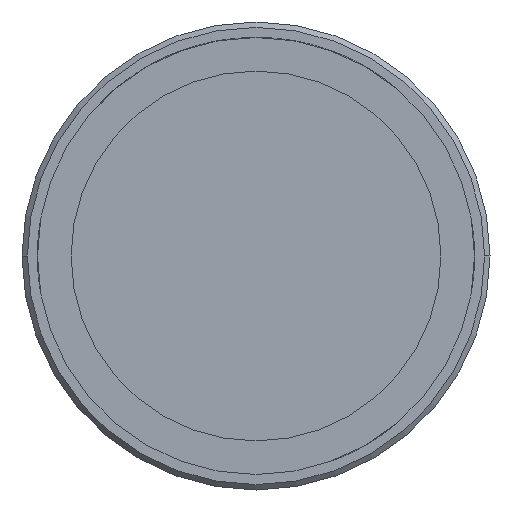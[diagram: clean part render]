
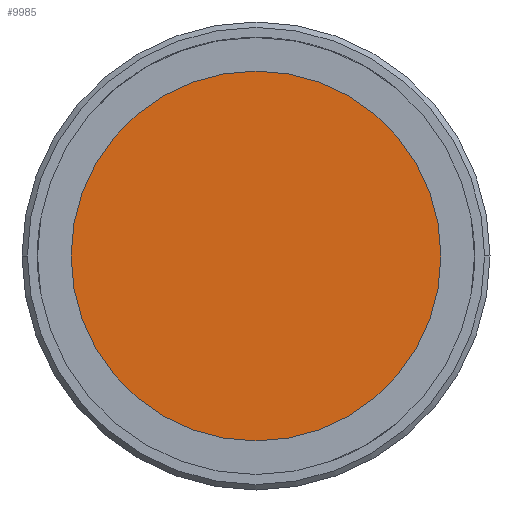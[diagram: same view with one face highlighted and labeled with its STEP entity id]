
A CAD part, left-side view. The second image highlights one B-rep face of the part: STEP entity #9985.
In plain terms, the highlighted planar face has unit normal (-1, 0, 0).
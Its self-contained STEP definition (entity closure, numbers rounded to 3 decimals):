
#263 = DIRECTION ( 'NONE',  ( 1., 0., 0. ) ) ;
#750 = DIRECTION ( 'NONE',  ( 0., -1., 0. ) ) ;
#779 = CIRCLE ( 'NONE', #7233, 17.462 ) ;
#2608 = AXIS2_PLACEMENT_3D ( 'NONE', #6091, #263, #7076 ) ;
#2706 = EDGE_LOOP ( 'NONE', ( #4760, #5902 ) ) ;
#3505 = EDGE_CURVE ( 'NONE', #11078, #8477, #5221, .T. ) ;
#3969 = FACE_OUTER_BOUND ( 'NONE', #2706, .T. ) ;
#4567 = CARTESIAN_POINT ( 'NONE',  ( -150.665, 0., 0. ) ) ;
#4760 = ORIENTED_EDGE ( 'NONE', *, *, #3505, .F. ) ;
#5221 = CIRCLE ( 'NONE', #2608, 17.462 ) ;
#5540 = DIRECTION ( 'NONE',  ( 0., 1., 0. ) ) ;
#5691 = CARTESIAN_POINT ( 'NONE',  ( -150.665, 17.462, 0. ) ) ;
#5902 = ORIENTED_EDGE ( 'NONE', *, *, #8232, .F. ) ;
#6091 = CARTESIAN_POINT ( 'NONE',  ( -150.665, 0., 0. ) ) ;
#6579 = DIRECTION ( 'NONE',  ( -1., 0., 0. ) ) ;
#7076 = DIRECTION ( 'NONE',  ( 0., 1., 0. ) ) ;
#7154 = AXIS2_PLACEMENT_3D ( 'NONE', #12399, #6579, #750 ) ;
#7233 = AXIS2_PLACEMENT_3D ( 'NONE', #4567, #11378, #5540 ) ;
#8232 = EDGE_CURVE ( 'NONE', #8477, #11078, #779, .T. ) ;
#8477 = VERTEX_POINT ( 'NONE', #11952 ) ;
#9495 = PLANE ( 'NONE',  #7154 ) ;
#9985 = ADVANCED_FACE ( 'NONE', ( #3969 ), #9495, .T. ) ;
#11078 = VERTEX_POINT ( 'NONE', #5691 ) ;
#11378 = DIRECTION ( 'NONE',  ( 1., 0., 0. ) ) ;
#11952 = CARTESIAN_POINT ( 'NONE',  ( -150.665, -17.463, 0. ) ) ;
#12399 = CARTESIAN_POINT ( 'NONE',  ( -150.665, 0., 0. ) ) ;
